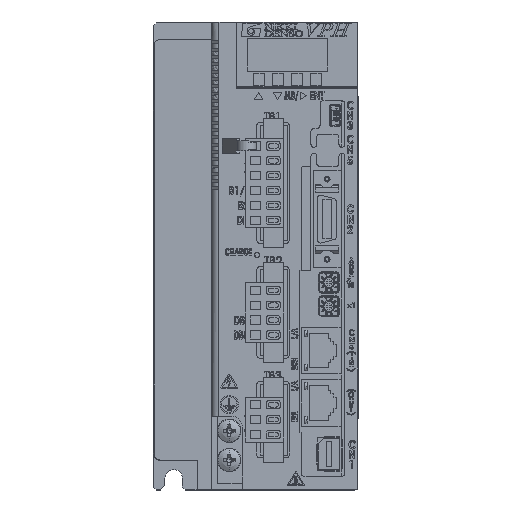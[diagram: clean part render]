
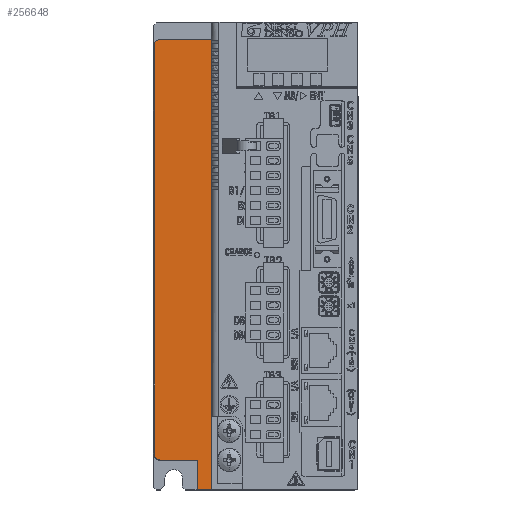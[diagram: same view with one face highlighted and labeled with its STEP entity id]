
A CAD part, top view. The second image highlights one B-rep face of the part: STEP entity #256648.
In plain terms, the highlighted planar face has unit normal (0, 0, 1).
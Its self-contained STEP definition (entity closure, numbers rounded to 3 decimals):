
#2461 = DIRECTION ( 'NONE',  ( 0., 0., -1. ) ) ;
#5357 = CARTESIAN_POINT ( 'NONE',  ( -69.5, -149., 151.5 ) ) ;
#5394 = CARTESIAN_POINT ( 'NONE',  ( -50., -160., 151.5 ) ) ;
#6064 = EDGE_CURVE ( 'NONE', #65464, #298206, #340586, .T. ) ;
#8768 = DIRECTION ( 'NONE',  ( 0., 0., -1. ) ) ;
#10767 = VECTOR ( 'NONE', #282394, 1000. ) ;
#11346 = VERTEX_POINT ( 'NONE', #118234 ) ;
#15208 = CARTESIAN_POINT ( 'NONE',  ( -50., -158., 151.5 ) ) ;
#18054 = CARTESIAN_POINT ( 'NONE',  ( -67.5, -150., 151.5 ) ) ;
#19621 = ORIENTED_EDGE ( 'NONE', *, *, #6064, .T. ) ;
#27813 = VECTOR ( 'NONE', #308089, 1000. ) ;
#28332 = DIRECTION ( 'NONE',  ( -1., 0., 0. ) ) ;
#32373 = VECTOR ( 'NONE', #196719, 1000. ) ;
#36925 = VERTEX_POINT ( 'NONE', #51831 ) ;
#47974 = LINE ( 'NONE', #120433, #10767 ) ;
#50191 = ORIENTED_EDGE ( 'NONE', *, *, #171885, .F. ) ;
#51831 = CARTESIAN_POINT ( 'NONE',  ( -55., -160., 151.5 ) ) ;
#65464 = VERTEX_POINT ( 'NONE', #5394 ) ;
#69974 = CIRCLE ( 'NONE', #240717, 2.5 ) ;
#73612 = ORIENTED_EDGE ( 'NONE', *, *, #143920, .F. ) ;
#73720 = DIRECTION ( 'NONE',  ( 0., 0., -1. ) ) ;
#78904 = ORIENTED_EDGE ( 'NONE', *, *, #223488, .F. ) ;
#80502 = DIRECTION ( 'NONE',  ( -1., 0., 0. ) ) ;
#83078 = ORIENTED_EDGE ( 'NONE', *, *, #200973, .F. ) ;
#92852 = CIRCLE ( 'NONE', #197416, 2.5 ) ;
#94784 = DIRECTION ( 'NONE',  ( -1., 0., 0. ) ) ;
#97778 = ORIENTED_EDGE ( 'NONE', *, *, #107602, .F. ) ;
#99954 = ORIENTED_EDGE ( 'NONE', *, *, #239337, .F. ) ;
#103188 = VECTOR ( 'NONE', #94784, 1000. ) ;
#104538 = DIRECTION ( 'NONE',  ( 0., 1., 0. ) ) ;
#106935 = AXIS2_PLACEMENT_3D ( 'NONE', #165610, #8768, #191470 ) ;
#107588 = VECTOR ( 'NONE', #185146, 1000. ) ;
#107602 = EDGE_CURVE ( 'NONE', #315929, #228114, #69974, .T. ) ;
#118234 = CARTESIAN_POINT ( 'NONE',  ( -55., -150., 151.5 ) ) ;
#120433 = CARTESIAN_POINT ( 'NONE',  ( -55., -150., 151.5 ) ) ;
#123686 = CARTESIAN_POINT ( 'NONE',  ( -50., -160., 151.5 ) ) ;
#124939 = CARTESIAN_POINT ( 'NONE',  ( -69.5, -160., 151.5 ) ) ;
#125517 = LINE ( 'NONE', #308211, #32373 ) ;
#126177 = DIRECTION ( 'NONE',  ( 1., 0., 0. ) ) ;
#130034 = VECTOR ( 'NONE', #126177, 1000. ) ;
#138033 = ORIENTED_EDGE ( 'NONE', *, *, #150831, .T. ) ;
#143920 = EDGE_CURVE ( 'NONE', #65464, #36925, #330870, .T. ) ;
#150831 = EDGE_CURVE ( 'NONE', #298206, #246341, #180513, .T. ) ;
#152525 = LINE ( 'NONE', #124939, #107588 ) ;
#163846 = CARTESIAN_POINT ( 'NONE',  ( -67.5, -6., 151.5 ) ) ;
#165533 = CARTESIAN_POINT ( 'NONE',  ( -50., -160., 151.5 ) ) ;
#165610 = CARTESIAN_POINT ( 'NONE',  ( -50., -160., 151.5 ) ) ;
#171885 = EDGE_CURVE ( 'NONE', #11346, #315929, #47974, .T. ) ;
#180513 = LINE ( 'NONE', #123686, #27813 ) ;
#185146 = DIRECTION ( 'NONE',  ( 0., 1., 0. ) ) ;
#185425 = CARTESIAN_POINT ( 'NONE',  ( -50., -160., 151.5 ) ) ;
#191470 = DIRECTION ( 'NONE',  ( -1., 0., 0. ) ) ;
#196719 = DIRECTION ( 'NONE',  ( 0., 1., 0. ) ) ;
#197416 = AXIS2_PLACEMENT_3D ( 'NONE', #295375, #2461, #28332 ) ;
#200973 = EDGE_CURVE ( 'NONE', #298717, #246341, #253753, .T. ) ;
#211980 = VERTEX_POINT ( 'NONE', #291579 ) ;
#214639 = ORIENTED_EDGE ( 'NONE', *, *, #292308, .F. ) ;
#223488 = EDGE_CURVE ( 'NONE', #228114, #211980, #152525, .T. ) ;
#228114 = VERTEX_POINT ( 'NONE', #5357 ) ;
#239337 = EDGE_CURVE ( 'NONE', #36925, #11346, #125517, .T. ) ;
#240717 = AXIS2_PLACEMENT_3D ( 'NONE', #309793, #73720, #80502 ) ;
#246341 = VERTEX_POINT ( 'NONE', #282902 ) ;
#253753 = LINE ( 'NONE', #331325, #130034 ) ;
#256648 = ADVANCED_FACE ( 'NONE', ( #300025 ), #294931, .F. ) ;
#282394 = DIRECTION ( 'NONE',  ( -1., 0., 0. ) ) ;
#282902 = CARTESIAN_POINT ( 'NONE',  ( -50., -6., 151.5 ) ) ;
#291579 = CARTESIAN_POINT ( 'NONE',  ( -69.5, -7., 151.5 ) ) ;
#292308 = EDGE_CURVE ( 'NONE', #211980, #298717, #92852, .T. ) ;
#294931 = PLANE ( 'NONE',  #106935 ) ;
#295375 = CARTESIAN_POINT ( 'NONE',  ( -67.5, -8.5, 151.5 ) ) ;
#298206 = VERTEX_POINT ( 'NONE', #15208 ) ;
#298717 = VERTEX_POINT ( 'NONE', #163846 ) ;
#300025 = FACE_OUTER_BOUND ( 'NONE', #326099, .T. ) ;
#308089 = DIRECTION ( 'NONE',  ( 0., 1., 0. ) ) ;
#308211 = CARTESIAN_POINT ( 'NONE',  ( -55., -160., 151.5 ) ) ;
#309793 = CARTESIAN_POINT ( 'NONE',  ( -67.5, -147.5, 151.5 ) ) ;
#313151 = VECTOR ( 'NONE', #104538, 1000. ) ;
#315929 = VERTEX_POINT ( 'NONE', #18054 ) ;
#326099 = EDGE_LOOP ( 'NONE', ( #83078, #214639, #78904, #97778, #50191, #99954, #73612, #19621, #138033 ) ) ;
#330870 = LINE ( 'NONE', #165533, #103188 ) ;
#331325 = CARTESIAN_POINT ( 'NONE',  ( -50., -6., 151.5 ) ) ;
#340586 = LINE ( 'NONE', #185425, #313151 ) ;
